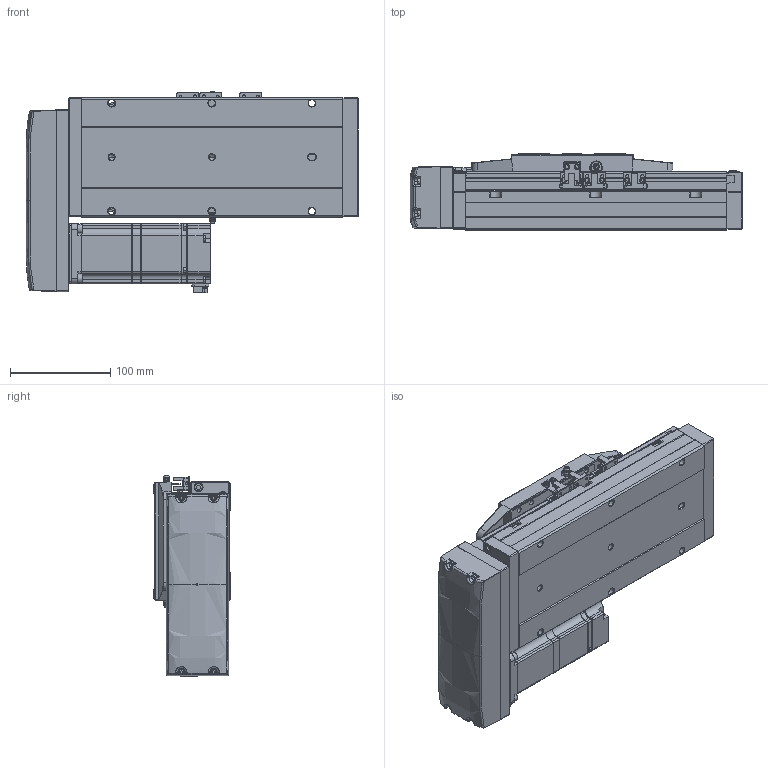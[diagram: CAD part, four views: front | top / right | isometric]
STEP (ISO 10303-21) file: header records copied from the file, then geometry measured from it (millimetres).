
FILE_DESCRIPTION (( 'STEP AP214' ), '1' );
FILE_NAME ('CTH12-L10-S50-BR-C40（简）.STEP', '2023-02-04T07:11:14', ( '' ), ( '' ), 'SwSTEP 2.0', 'SolidWorks 2018', '' );
FILE_SCHEMA (( 'AUTOMOTIVE_DESIGN' ));
Length unit declared in the file: millimetre
Products named in the file (24): CTH12覜茼え; 内六角圆柱头螺钉M3-1; CTH12賑怢郪磁; PM-Y45; 嫖萇羲壽郪磁1; CTH12耜蚾裔; CTH12-BL_body_4; 嫖萇羲壽郪磁2; CTH400W垫板（3个厚）; CTH12侧装连接板（标准）简; CTH嫖萇羲壽假蚾啣; 内六角圆柱头螺钉M3-2; 湮賑怢  裔赽-1(CTH12)賑怢; CTH12_body_3; CTH400W假蚾啣; CTH12菁釱-L261潠; CTH12; 内六角圆柱头螺钉M3; hex nuts, style 1-grades ab gb_GB_FASTENER_NUT_SNAB1 M3-N; M5蹟隊; AC60_Valor predeterminado; CTH12-L10-S50-BR-C40（简）; 蚐郲; CTH12賑怢ㄗ潠ㄘ
Assembly tree (44 placements, depth 4):
  CTH12-L10-S50-BR-C40（简）
    CTH12菁釱-L261潠
    蚐郲  x2
    CTH12_body_3
    CTH12-BL_body_4
    CTH12侧装连接板（标准）简
    CTH12耜蚾裔
    CTH12賑怢郪磁
      CTH12
        湮賑怢  裔赽-1(CTH12)賑怢
        CTH12賑怢ㄗ潠ㄘ
    CTH12覜茼え
    嫖萇羲壽郪磁1  x2
      CTH嫖萇羲壽假蚾啣
      PM-Y45
      内六角圆柱头螺钉M3-2
      内六角圆柱头螺钉M3-1
      hex nuts, style 1-grades ab gb_GB_FASTENER_NUT_SNAB1 M3-N
    嫖萇羲壽郪磁2
      CTH嫖萇羲壽假蚾啣
      PM-Y45
      内六角圆柱头螺钉M3-1  x2
      内六角圆柱头螺钉M3-2  x2
      hex nuts, style 1-grades ab gb_GB_FASTENER_NUT_SNAB1 M3-N  x2
    CTH400W垫板（3个厚）
    AC60_Valor predeterminado
    内六角圆柱头螺钉M3  x6
    M5蹟隊  x4
    CTH400W假蚾啣
Bounding box: 331.5 x 76 x 201.06 mm (x, y, z)
Volume: 2797311.5 mm3; surface area: 399514.2 mm2
Topology: 47 solids, 48 shells, 2585 faces, 6578 edges, 4211 vertices
Faces by surface type: plane 1439, cylinder 735, cone 271, bspline 88, torus 52
Entity records: 73261 total; most frequent: CARTESIAN_POINT 19734, ORIENTED_EDGE 10336, DIRECTION 10023, EDGE_CURVE 5168, AXIS2_PLACEMENT_3D 3368, VERTEX_POINT 3315, VECTOR 3287, LINE 3287
